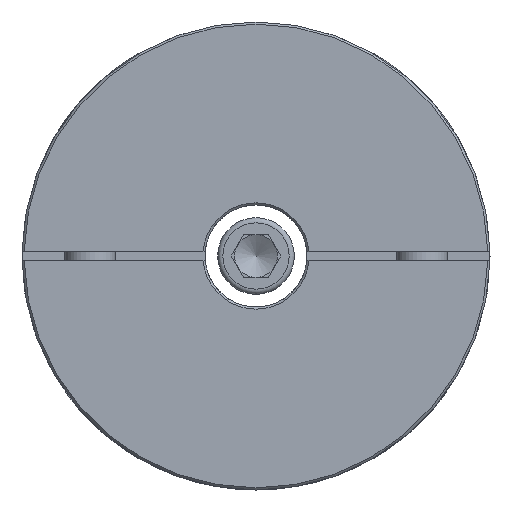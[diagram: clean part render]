
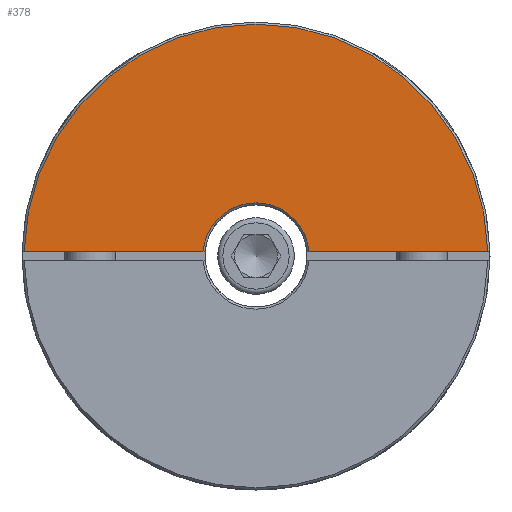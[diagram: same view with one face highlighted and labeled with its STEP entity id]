
A CAD part, left-side view. The second image highlights one B-rep face of the part: STEP entity #378.
In plain terms, the highlighted planar face has unit normal (-1, 0, 0) as drawn and (1, 0, 0) by its records, which use the part's own axes.
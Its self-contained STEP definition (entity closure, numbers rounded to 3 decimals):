
#378 = ADVANCED_FACE( '', ( #627 ), #628, .T. );
#627 = FACE_OUTER_BOUND( '', #866, .T. );
#628 = PLANE( '', #867 );
#866 = EDGE_LOOP( '', ( #1182, #1183, #1184, #1185 ) );
#867 = AXIS2_PLACEMENT_3D( '', #1186, #1187, #1188 );
#1182 = ORIENTED_EDGE( '', *, *, #1561, .F. );
#1183 = ORIENTED_EDGE( '', *, *, #1573, .T. );
#1184 = ORIENTED_EDGE( '', *, *, #1565, .F. );
#1185 = ORIENTED_EDGE( '', *, *, #1556, .T. );
#1186 = CARTESIAN_POINT( '', ( 43., 0., 55. ) );
#1187 = DIRECTION( '', ( 1., 0., 0. ) );
#1188 = DIRECTION( '', ( 0., 0., -1. ) );
#1556 = EDGE_CURVE( '', #1708, #1705, #1709, .T. );
#1561 = EDGE_CURVE( '', #1716, #1705, #1718, .T. );
#1565 = EDGE_CURVE( '', #1708, #1724, #1725, .T. );
#1573 = EDGE_CURVE( '', #1716, #1724, #1738, .F. );
#1705 = VERTEX_POINT( '', #1867 );
#1708 = VERTEX_POINT( '', #1873 );
#1709 = CIRCLE( '', #1874, 54.5 );
#1716 = VERTEX_POINT( '', #1885 );
#1718 = LINE( '', #1890, #1891 );
#1724 = VERTEX_POINT( '', #1899 );
#1725 = LINE( '', #1900, #1901 );
#1738 = CIRCLE( '', #1920, 12.5 );
#1867 = CARTESIAN_POINT( '', ( 43., -54.491, 1. ) );
#1873 = CARTESIAN_POINT( '', ( 43., 54.491, 1. ) );
#1874 = AXIS2_PLACEMENT_3D( '', #2413, #2414, #2415 );
#1885 = CARTESIAN_POINT( '', ( 43., -12.46, 1. ) );
#1890 = CARTESIAN_POINT( '', ( 43., 0., 1. ) );
#1891 = VECTOR( '', #2420, 1000. );
#1899 = CARTESIAN_POINT( '', ( 43., 12.46, 1. ) );
#1900 = CARTESIAN_POINT( '', ( 43., 0., 1. ) );
#1901 = VECTOR( '', #2426, 1000. );
#1920 = AXIS2_PLACEMENT_3D( '', #2439, #2440, #2441 );
#2413 = CARTESIAN_POINT( '', ( 43., 0., 0. ) );
#2414 = DIRECTION( '', ( 1., 0., 0. ) );
#2415 = DIRECTION( '', ( 0., 0., -1. ) );
#2420 = DIRECTION( '', ( 0., -1., 0. ) );
#2426 = DIRECTION( '', ( 0., -1., 0. ) );
#2439 = CARTESIAN_POINT( '', ( 43., 0., 0. ) );
#2440 = DIRECTION( '', ( 1., 0., 0. ) );
#2441 = DIRECTION( '', ( 0., 0., -1. ) );
